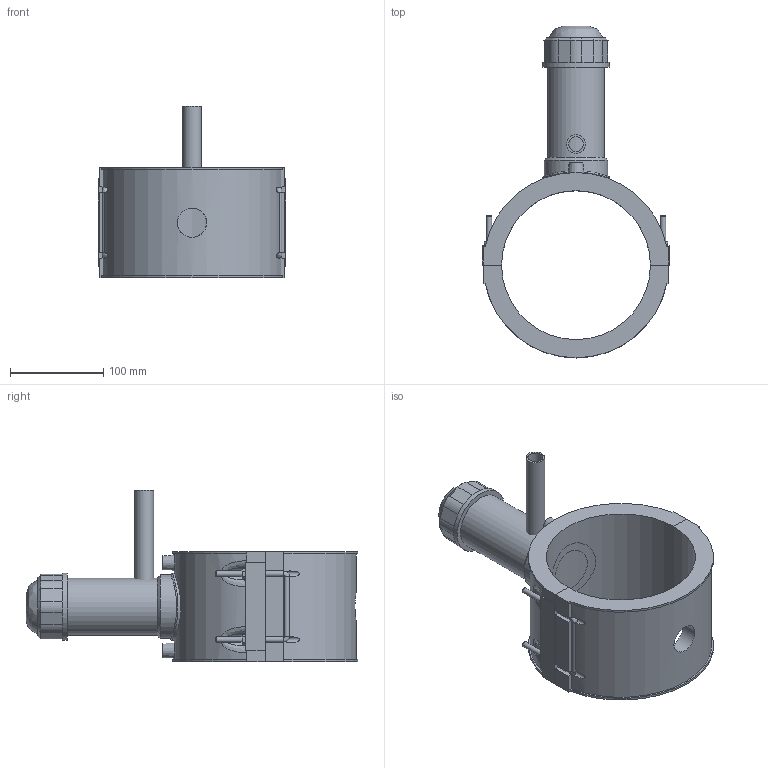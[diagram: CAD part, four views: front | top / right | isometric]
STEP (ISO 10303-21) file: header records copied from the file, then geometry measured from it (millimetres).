
FILE_DESCRIPTION(/* description */ (''),/* implementation_level */ '2;1');
FILE_NAME(/* name */ 'C:\Dropbox\KIMPROJECTS-Inventor 2019\99-16-3568-Processing\ElectroFusion Fittings\4963P4\stp\4963P4160020.stp',/* time_stamp */ '2022-03-17T11:29:54+02:00',/* author */ ('KIM'),/* organization */ (''),/* preprocessor_version */ 'ST-DEVELOPER v17.2',/* originating_system */ 'Autodesk Inventor 2019',/* authorisation */ '');
FILE_SCHEMA (('AUTOMOTIVE_DESIGN { 1 0 10303 214 3 1 1 }'));
Length unit declared in the file: millimetre
Products named in the file (1): 4963P4160020
Bounding box: 201 x 356.55 x 184 mm (x, y, z)
Volume: 1505543.6 mm3; surface area: 255126 mm2
Topology: 3 solids, 3 shells, 194 faces, 503 edges, 329 vertices
Faces by surface type: plane 118, cylinder 51, cone 15, bspline 10
Full cylindrical faces by diameter (mm): 4 x2, 6 x8, 10 x2, 16 x1, 20 x1, 31.36 x1, 50.4 x1, 61.2 x1, 68.4 x1, 72 x2
Entity records: 7276 total; most frequent: CARTESIAN_POINT 2484, ORIENTED_EDGE 1006, DIRECTION 946, EDGE_CURVE 503, VERTEX_POINT 329, AXIS2_PLACEMENT_3D 319, LINE 308, VECTOR 308
